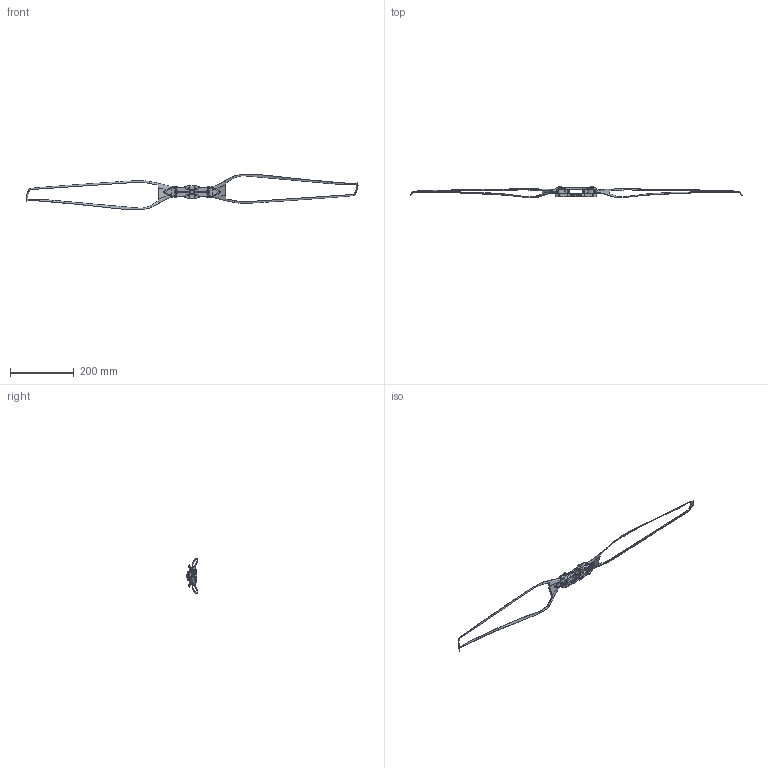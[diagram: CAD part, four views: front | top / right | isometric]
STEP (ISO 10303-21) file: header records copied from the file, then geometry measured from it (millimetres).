
FILE_DESCRIPTION (( 'STEP AP214' ), '1' );
FILE_NAME ('MF41-CCW-懫諾.STEP', '2025-02-11T05:38:28', ( '' ), ( '' ), 'SwSTEP 2.0', 'SolidWorks 2022', '' );
FILE_SCHEMA (( 'AUTOMOTIVE_DESIGN' ));
Length unit declared in the file: millimetre
Products named in the file (7): XA40寸-氟胶套; M4x25 弹垫螺丝; BJJ02060442-41寸桨夹下板CCW-B; MF40.4-CCW; M4防松螺母; MF41-CCW-镂空; BJJ02060441-41寸桨夹上板CCW-A
Assembly tree (12 placements, depth 2):
  MF41-CCW-镂空
    BJJ02060442-41寸桨夹下板CCW-B
    MF40.4-CCW  x2
    BJJ02060441-41寸桨夹上板CCW-A
    M4x25 弹垫螺丝  x2
    M4防松螺母  x2
    XA40寸-氟胶套  x4
Bounding box: 1043.47 x 37.29 x 111.99 mm (x, y, z)
Volume: 109021.2 mm3; surface area: 74764.5 mm2
Topology: 14 solids, 14 shells, 1251 faces, 3168 edges, 1988 vertices
Faces by surface type: cylinder 454, plane 415, bspline 222, torus 92, cone 68
Entity records: 57362 total; most frequent: CARTESIAN_POINT 36556, ORIENTED_EDGE 4386, DIRECTION 4185, EDGE_CURVE 2193, AXIS2_PLACEMENT_3D 1551, VERTEX_POINT 1392, LINE 1083, VECTOR 1083
